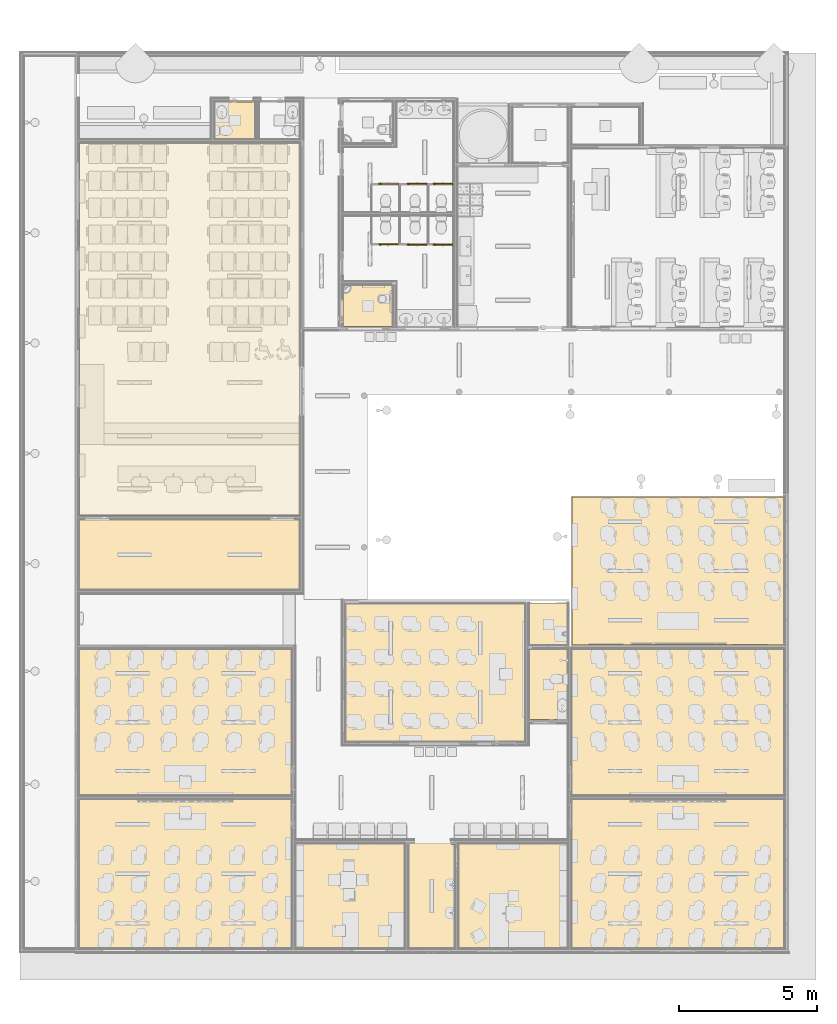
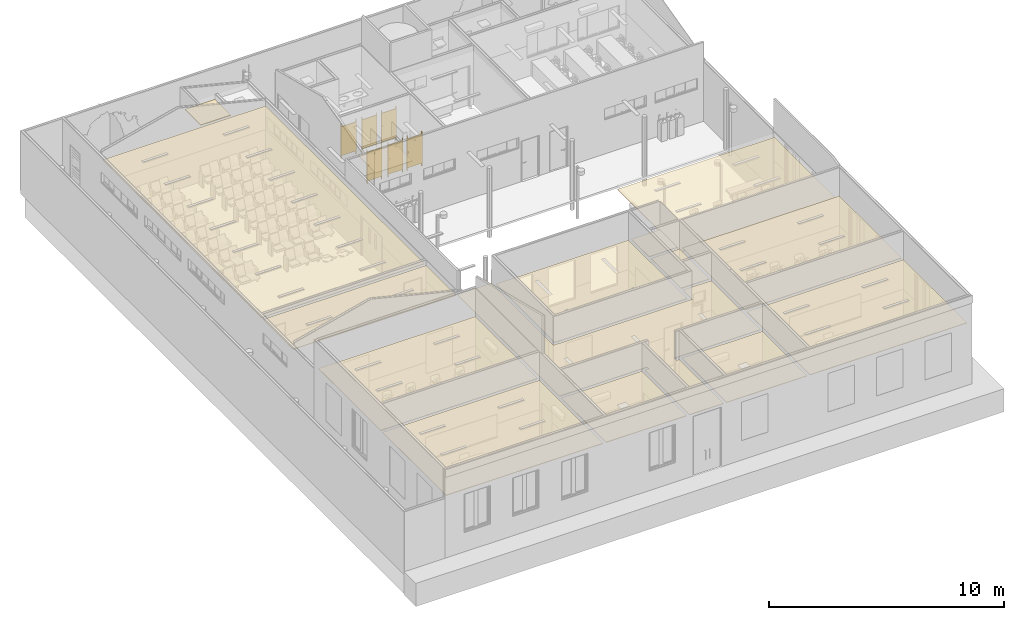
# One storey, part 49 of 155: 15 coverings, 6 doors.
"""IFC2X3 building model written with IfcOpenShell, lengths in metres."""

import ifcopenshell
import ifcopenshell.guid

model = None  # the IFC model being written
_history = None  # IfcOwnerHistory: only IFC2X3 demands one
_inside = {}  # id of a spatial element -> (the spatial element, [elements in it])
_under = {}  # id of a project, library or spatial element -> (it, [spatial elements below it])
_declared = {}  # id of a project -> (the project, [libraries it declares])
_typed = {}  # id of a type object -> (the type object, [elements of that type])
_made_of = {}  # id of a material, layer set ... -> (it, [elements and type objects made of it])


def new_model(schema):
    """Start an empty IFC model of exactly this schema.

    Asked for "IFC4X3", IfcOpenShell would pick the latest addendum, in which some entities
    have other attributes; the version numbers below select the first issue.
    IFC2X3 requires an IfcOwnerHistory on every rooted entity: one is made here for all.
    """
    global model, _history
    if schema == "IFC4X3":
        model = ifcopenshell.file(schema_version=(4, 3, 0, 0))
    else:
        model = ifcopenshell.file(schema=schema)
    _inside.clear()
    _under.clear()
    _declared.clear()
    _typed.clear()
    _made_of.clear()
    _history = None
    if model.schema == "IFC2X3":
        org = make("IfcOrganization", Name="unknown")
        user = make(
            "IfcPersonAndOrganization",
            ThePerson=make("IfcPerson", FamilyName="unknown"),
            TheOrganization=org,
        )
        app = make(
            "IfcApplication",
            ApplicationDeveloper=org,
            Version="unknown",
            ApplicationFullName="unknown",
            ApplicationIdentifier="unknown",
        )
        _history = make(
            "IfcOwnerHistory",
            OwningUser=user,
            OwningApplication=app,
            ChangeAction="ADDED",
            CreationDate=0,
        )
    return model


def make(cls, **values):
    """One entity of the class cls with the attributes given. An attribute that is None is left unset."""
    return model.create_entity(
        cls, **{name: value for name, value in values.items() if value is not None}
    )


def entity(cls, *values):
    """Any entity or typed value of the class cls, its attributes in the order of the schema. None: left unset."""
    e = model.create_entity(cls)
    for i, value in enumerate(values):
        if value is not None:
            e[i] = value
    return e


def rooted(cls, **values):
    """An entity with a GlobalId (a new one), such as an element, a storey or a relation."""
    return make(cls, GlobalId=ifcopenshell.guid.new(), OwnerHistory=_history, **values)


def si_unit(unit_type, name, prefix=None):
    """IfcSIUnit, for example si_unit("LENGTHUNIT", "METRE", prefix="MILLI")."""
    return make("IfcSIUnit", UnitType=unit_type, Prefix=prefix, Name=name)


def converted_unit(unit_type, name, factor, base, dimensions=None, offset=None):
    """IfcConversionBasedUnit, such as the inch: factor (a typed value) times the base unit."""
    return make(
        "IfcConversionBasedUnit"
        if offset is None
        else "IfcConversionBasedUnitWithOffset",
        ConversionOffset=offset,
        Dimensions=None
        if dimensions is None
        else entity("IfcDimensionalExponents", *dimensions),
        UnitType=unit_type,
        Name=name,
        ConversionFactor=make(
            "IfcMeasureWithUnit", ValueComponent=factor, UnitComponent=base
        ),
    )


def derived_unit(unit_type, elements):
    """IfcDerivedUnit: a product of units, each with its exponent."""
    return make(
        "IfcDerivedUnit",
        Elements=[
            make("IfcDerivedUnitElement", Unit=unit, Exponent=power)
            for unit, power in elements
        ],
        UnitType=unit_type,
    )


def assignment(units):
    """IfcUnitAssignment: the units of a project."""
    return None if units is None else make("IfcUnitAssignment", Units=units)


def point(xyz):
    """IfcCartesianPoint."""
    return None if xyz is None else make("IfcCartesianPoint", Coordinates=xyz)


def direction(xyz):
    """IfcDirection."""
    return None if xyz is None else make("IfcDirection", DirectionRatios=xyz)


def frame(location, z_axis=None, x_axis=None):
    """IfcAxis2Placement3D, a coordinate frame: its origin and axes. An axis left out is left unset."""
    return make(
        "IfcAxis2Placement3D",
        Location=point(location),
        Axis=direction(z_axis),
        RefDirection=direction(x_axis),
    )


def frame_2d(location, x_axis=None):
    """IfcAxis2Placement2D, a coordinate frame in the plane: its origin and x axis."""
    return make(
        "IfcAxis2Placement2D", Location=point(location), RefDirection=direction(x_axis)
    )


def origin():
    """The frame at (0, 0, 0) with its axes left unset."""
    return frame((0.0, 0.0, 0.0))


def origin_2d_with_axis():
    """The frame at (0, 0) in the plane with the x axis (1, 0) written out."""
    return frame_2d((0.0, 0.0), x_axis=(1.0, 0.0))


def place(relative_to, where):
    """IfcLocalPlacement: puts the frame where relative to a parent placement (None: the world)."""
    return make(
        "IfcLocalPlacement", PlacementRelTo=relative_to, RelativePlacement=where
    )


def context(
    kind, dimensions, precision=None, world=None, true_north=None, identifier=None
):
    """IfcGeometricRepresentationContext, for example the 3D "Model" context."""
    return make(
        "IfcGeometricRepresentationContext",
        ContextIdentifier=identifier,
        ContextType=kind,
        CoordinateSpaceDimension=dimensions,
        Precision=precision,
        WorldCoordinateSystem=world,
        TrueNorth=true_north,
    )


def subcontext(parent, identifier, kind, view, scale=None):
    """IfcGeometricRepresentationSubContext, for example "Body" below "Model"."""
    return make(
        "IfcGeometricRepresentationSubContext",
        ContextIdentifier=identifier,
        ContextType=kind,
        ParentContext=parent,
        TargetScale=scale,
        TargetView=view,
    )


def project(units=None, contexts=None):
    """IfcProject with its units and contexts."""
    return rooted(
        "IfcProject",
        Name="project",
        RepresentationContexts=contexts,
        UnitsInContext=assignment(units),
    )


def spatial(cls, under=None, at=None, **own):
    """A site, building, storey or space (cls), placed at a placement, below another one or the project."""
    s = rooted(cls, ObjectPlacement=at, **own)
    if under is not None:
        _under.setdefault(under.id(), (under, []))[1].append(s)
    return s


def polyline(points):
    """IfcPolyline through the points."""
    return make("IfcPolyline", Points=[point(p) for p in points])


def circle_curve(where, radius):
    """IfcCircle in the frame where."""
    return make("IfcCircle", Position=where, Radius=radius)


def parameter(value):
    """IfcParameterValue: where a trimmed curve begins or ends, as a parameter of its basis curve."""
    return model.create_entity("IfcParameterValue", value)


def trimmed(basis, trim1, trim2, sense, master):
    """IfcTrimmedCurve: the piece of a basis curve between two trims."""
    return make(
        "IfcTrimmedCurve",
        BasisCurve=basis,
        Trim1=trim1,
        Trim2=trim2,
        SenseAgreement=sense,
        MasterRepresentation=master,
    )


def segment(curve, same_sense, transition):
    """IfcCompositeCurveSegment."""
    return make(
        "IfcCompositeCurveSegment",
        Transition=transition,
        SameSense=same_sense,
        ParentCurve=curve,
    )


def composite_curve(segments, self_intersect=None):
    """IfcCompositeCurve: segments joined end to end."""
    return make("IfcCompositeCurve", Segments=segments, SelfIntersect=self_intersect)


def profile(cls, at=None, kind="AREA", **sizes):
    """A parametric profile (cls). Its sizes go by their IFC names, for example OverallWidth=200.0."""
    return make(cls, ProfileType=kind, Position=at, **sizes)


def rectangle(**sizes):
    """IfcRectangleProfileDef."""
    return profile("IfcRectangleProfileDef", **sizes)


def circle(**sizes):
    """IfcCircleProfileDef."""
    return profile("IfcCircleProfileDef", **sizes)


def outline(outer, holes=None, kind="AREA"):
    """IfcArbitraryClosedProfileDef: a profile drawn as a closed curve; with holes, ...WithVoids."""
    if holes is None:
        return make("IfcArbitraryClosedProfileDef", ProfileType=kind, OuterCurve=outer)
    return make(
        "IfcArbitraryProfileDefWithVoids",
        ProfileType=kind,
        OuterCurve=outer,
        InnerCurves=holes,
    )


def extrude(swept, where, along, depth):
    """IfcExtrudedAreaSolid: the profile swept, set in the frame where, extruded along a direction by depth."""
    return make(
        "IfcExtrudedAreaSolid",
        SweptArea=swept,
        Position=where,
        ExtrudedDirection=direction(along),
        Depth=depth,
    )


def shape(context_of_items, identifier, shape_type, items):
    """IfcShapeRepresentation: the items that make up one representation, for example the "Body"."""
    return make(
        "IfcShapeRepresentation",
        ContextOfItems=context_of_items,
        RepresentationIdentifier=identifier,
        RepresentationType=shape_type,
        Items=items,
    )


def source(mapping_origin, context_of_items, identifier, shape_type, items):
    """IfcRepresentationMap: a shape defined once, which mapped items show again and again."""
    return make(
        "IfcRepresentationMap",
        MappingOrigin=mapping_origin,
        MappedRepresentation=shape(context_of_items, identifier, shape_type, items),
    )


def transform(
    local_origin,
    x_axis=None,
    y_axis=None,
    z_axis=None,
    scale=None,
    scale2=None,
    scale3=None,
    uniform=True,
):
    """IfcCartesianTransformationOperator3D, or its non-uniform kind. x_axis, y_axis, z_axis: its Axis1, 2, 3."""
    if uniform:
        return make(
            "IfcCartesianTransformationOperator3D",
            Axis1=direction(x_axis),
            Axis2=direction(y_axis),
            LocalOrigin=point(local_origin),
            Scale=scale,
            Axis3=direction(z_axis),
        )
    return make(
        "IfcCartesianTransformationOperator3DnonUniform",
        Axis1=direction(x_axis),
        Axis2=direction(y_axis),
        LocalOrigin=point(local_origin),
        Scale=scale,
        Axis3=direction(z_axis),
        Scale2=scale2,
        Scale3=scale3,
    )


def mapped(mapping_source, mapping_target):
    """IfcMappedItem: shows the shape of a source again, moved by a transform."""
    return make(
        "IfcMappedItem", MappingSource=mapping_source, MappingTarget=mapping_target
    )


def material(Name=None, Category=None):
    """IfcMaterial."""
    return make("IfcMaterial", Name=Name, Category=Category)


def material_list(materials):
    """IfcMaterialList."""
    return make("IfcMaterialList", Materials=materials)


def layer(
    of_material, thickness, ventilated=None, Name=None, Category=None, Priority=None
):
    """IfcMaterialLayer: one layer of a wall or slab, of a material (None: an air gap)."""
    return make(
        "IfcMaterialLayer",
        Material=of_material,
        LayerThickness=thickness,
        IsVentilated=ventilated,
        Name=Name,
        Category=Category,
        Priority=Priority,
    )


def layer_set(layers, Name=None):
    """IfcMaterialLayerSet."""
    return make("IfcMaterialLayerSet", MaterialLayers=layers, LayerSetName=Name)


def layer_usage(for_layer_set, set_direction, sense, offset, extent=None):
    """IfcMaterialLayerSetUsage: how a layer set lies in its element."""
    return make(
        "IfcMaterialLayerSetUsage",
        ForLayerSet=for_layer_set,
        LayerSetDirection=set_direction,
        DirectionSense=sense,
        OffsetFromReferenceLine=offset,
        ReferenceExtent=extent,
    )


def made_of(thing, what):
    """Note that an element or type object is made of a material, layer set ...; save() writes the relation."""
    if what is not None:
        _made_of.setdefault(what.id(), (what, []))[1].append(thing)
    return thing


def type_object(cls, material=None, **own):
    """A type object (cls), such as IfcWallType, which elements share."""
    return made_of(rooted(cls, **own), material)


def type_shapes(of_type, sources):
    """Give a type object the sources (RepresentationMaps) that its elements show as mapped items."""
    of_type.RepresentationMaps = sources


def element(
    cls,
    number,
    at=None,
    inside=None,
    cuts=None,
    type_object=None,
    material=None,
    context=None,
    identifier="Body",
    shape_type=None,
    held_by="IfcProductDefinitionShape",
    body=None,
    shapes=None,
    **own,
):
    """One element of the class cls, such as IfcWall. Its Tag is "e" and its number.

    at: its placement. inside: the storey or other place that contains it. cuts: it is an
    opening in that element (IfcRelVoidsElement). A single representation is given by context,
    identifier, shape_type and body (its items); several are given by shapes. held_by: the class
    of the entity that holds the representations. save() writes the other relations.
    """
    e = rooted(cls, Tag="e%d" % number, ObjectPlacement=at, **own)
    if body is not None:
        shapes = [shape(context, identifier, shape_type, body)]
    if shapes is not None:
        e.Representation = make(held_by, Representations=shapes)
    if inside is not None:
        _inside.setdefault(inside.id(), (inside, []))[1].append(e)
    if cuts is not None:
        rooted(
            "IfcRelVoidsElement", RelatingBuildingElement=cuts, RelatedOpeningElement=e
        )
    if type_object is not None:
        _typed.setdefault(type_object.id(), (type_object, []))[1].append(e)
    return made_of(e, material)


def aggregate(whole, parts):
    """IfcRelAggregates: a whole, such as a stair, and the parts it consists of."""
    return rooted("IfcRelAggregates", RelatingObject=whole, RelatedObjects=parts)


def save(model, path):
    """Write the relations noted so far, then the file.

    IfcRelAggregates (storeys below a building ...), IfcRelContainedInSpatialStructure (elements
    in a storey), IfcRelDefinesByType, IfcRelAssociatesMaterial and IfcRelDeclares: one each for
    every whole, place, type object, material and project.
    """
    for whole, parts in _under.values():
        aggregate(whole, parts)
    for where, things in _inside.values():
        rooted(
            "IfcRelContainedInSpatialStructure",
            RelatedElements=things,
            RelatingStructure=where,
        )
    for kind, things in _typed.values():
        rooted("IfcRelDefinesByType", RelatedObjects=things, RelatingType=kind)
    for what, things in _made_of.values():
        rooted("IfcRelAssociatesMaterial", RelatedObjects=things, RelatingMaterial=what)
    for by, libraries in _declared.values():
        rooted("IfcRelDeclares", RelatingContext=by, RelatedDefinitions=libraries)
    model.write(path)


model = new_model("IFC2X3")

# Units and contexts
model_context = context("Model", 3, precision=1e-05, world=origin(), true_north=direction((6.12303176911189e-17, 1.0)))
body_context = subcontext(model_context, "Body", "Model", "MODEL_VIEW")
ifc_project = project(units=[si_unit("LENGTHUNIT", "METRE"), si_unit("AREAUNIT", "SQUARE_METRE"), si_unit("VOLUMEUNIT", "CUBIC_METRE"), converted_unit("PLANEANGLEUNIT", "DEGREE", entity("IfcRatioMeasure", 0.0174532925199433), si_unit("PLANEANGLEUNIT", "RADIAN"), dimensions=[0, 0, 0, 0, 0, 0, 0]), si_unit("MASSUNIT", "GRAM", prefix="KILO"), derived_unit("MASSDENSITYUNIT", [(si_unit("MASSUNIT", "GRAM", prefix="KILO"), 1), (si_unit("LENGTHUNIT", "METRE"), -3)]), si_unit("TIMEUNIT", "SECOND"), si_unit("FREQUENCYUNIT", "HERTZ"), si_unit("THERMODYNAMICTEMPERATUREUNIT", "DEGREE_CELSIUS"), derived_unit("THERMALTRANSMITTANCEUNIT", [(si_unit("MASSUNIT", "GRAM", prefix="KILO"), 1), (si_unit("THERMODYNAMICTEMPERATUREUNIT", "KELVIN"), -1), (si_unit("TIMEUNIT", "SECOND"), -3)]), derived_unit("VOLUMETRICFLOWRATEUNIT", [(si_unit("LENGTHUNIT", "METRE"), 3), (si_unit("TIMEUNIT", "SECOND"), -1)]), si_unit("ELECTRICCURRENTUNIT", "AMPERE"), si_unit("ELECTRICVOLTAGEUNIT", "VOLT"), si_unit("POWERUNIT", "WATT"), si_unit("FORCEUNIT", "NEWTON", prefix="KILO"), si_unit("ILLUMINANCEUNIT", "LUX"), si_unit("LUMINOUSFLUXUNIT", "LUMEN"), si_unit("LUMINOUSINTENSITYUNIT", "CANDELA"), derived_unit("USERDEFINED", [(si_unit("MASSUNIT", "GRAM", prefix="KILO"), -1), (si_unit("LENGTHUNIT", "METRE"), -2), (si_unit("TIMEUNIT", "SECOND"), 3), (si_unit("LUMINOUSFLUXUNIT", "LUMEN"), 1)]), derived_unit("LINEARVELOCITYUNIT", [(si_unit("LENGTHUNIT", "METRE"), 1), (si_unit("TIMEUNIT", "SECOND"), -1)]), si_unit("PRESSUREUNIT", "PASCAL"), derived_unit("USERDEFINED", [(si_unit("LENGTHUNIT", "METRE"), -2), (si_unit("MASSUNIT", "GRAM", prefix="KILO"), 1), (si_unit("TIMEUNIT", "SECOND"), -2)])], contexts=[model_context])

# Site, building, storey
site_placement = place(None, frame((26.9889013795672, -17.5624287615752, 0.0)))
site = spatial("IfcSite", under=ifc_project, at=site_placement, Name="Default", CompositionType="ELEMENT")
building_placement = place(site_placement, origin())
building = spatial("IfcBuilding", under=site, at=building_placement, Name="C. C. L. Monsenhor Antônio Sampaio", CompositionType="ELEMENT")
storey_placement = place(building_placement, frame((0.0, 0.0, 1.19999999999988)))
storey = spatial("IfcBuildingStorey", under=building, at=storey_placement, Name="Nível 1.2", CompositionType="ELEMENT", Elevation=1.19999999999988)

# Doors
ifc_material_1 = material(Name="Padrão")
ifc_material_2 = material(Name=".Madeira")
ifc_material_3 = material(Name="Alumínio")
ifc_material_list_1 = material_list([ifc_material_1, ifc_material_2, ifc_material_3])
ifc_material_list_2 = material_list([ifc_material_1, ifc_material_2, ifc_material_3])
door_style_1 = type_object("IfcDoorStyle", Name="PORTA BOXE BANHEIROS", ConstructionType="NOTDEFINED", OperationType="SINGLE_SWING_RIGHT", ParameterTakesPrecedence=False, Sizeable=False, material=ifc_material_list_2)
shared_shape_1 = source(origin(), body_context, "Body", "SweptSolid", [
    extrude(circle(Radius=0.0225, at=frame_2d((0.0, -3.38395977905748e-17), x_axis=(1.0, 0.0))), frame((-0.289000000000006, -0.007432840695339, 0.949999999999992), z_axis=(0.0, 1.0, 0.0), x_axis=(0.0, 0.0, 1.0)), (0.0, 0.0, 1.0), 0.00743284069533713),
    extrude(rectangle(XDim=0.015, YDim=0.01, at=frame_2d((4.33680868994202e-18, -1.69135538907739e-17), x_axis=(1.0, 0.0))), frame((-0.288999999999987, 0.0524999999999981, 0.932500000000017), z_axis=(0.0, 0.0, 1.0), x_axis=(0.0, -1.0, 0.0)), (0.0, 0.0, 1.0), 0.035),
    extrude(rectangle(XDim=0.01, YDim=0.055, at=frame_2d((4.33680868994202e-18, -1.73472347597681e-17), x_axis=(1.0, 0.0))), frame((-0.288999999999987, 0.0399999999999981, 0.912500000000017), z_axis=(0.0, 0.0, 1.0), x_axis=(0.0, -1.0, 0.0)), (0.0, 0.0, 1.0), 0.075),
    extrude(outline(composite_curve([segment(polyline([(-0.0169104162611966, 0.0147486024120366), (0.00736096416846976, 0.0147486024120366)]), True, "CONTINUOUS"), segment(polyline([(0.00736096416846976, 0.0147486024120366), (0.00736096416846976, 0.0167486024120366)]), True, "CONTINUOUS"), segment(polyline([(0.00736096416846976, 0.0167486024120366), (-0.0169104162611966, 0.0167486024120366)]), True, "CONTINUOUS"), segment(trimmed(circle_curve(frame_2d((-0.0169104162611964, 0.0104499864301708), x_axis=(1.0, 0.0)), 0.00629861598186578), [parameter(90.0000000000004)], [parameter(269.999999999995)], True, "PARAMETER"), True, "CONTINUOUS"), segment(trimmed(circle_curve(frame_2d((-0.0169104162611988, -0.038414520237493), x_axis=(1.0, 0.0)), 0.042565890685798), [parameter(50.0000000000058)], [parameter(89.9999999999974)], True, "PARAMETER"), False, "CONTINUOUS"), segment(trimmed(circle_curve(frame_2d((0.00676822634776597, -0.0101954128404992), x_axis=(1.0, 0.0)), 0.00572846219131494), [parameter(310.000000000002)], [parameter(50.0000000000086)], True, "PARAMETER"), False, "CONTINUOUS"), segment(trimmed(circle_curve(frame_2d((0.00790334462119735, -0.0115481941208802), x_axis=(1.0, 0.0)), 0.0039625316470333), [parameter(169.614814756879)], [parameter(310.000000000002)], True, "PARAMETER"), False, "CONTINUOUS"), segment(trimmed(circle_curve(frame_2d((0.00326279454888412, -0.010697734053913), x_axis=(1.0, 0.0)), 0.000755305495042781), [parameter(349.614814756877)], [parameter(151.85950286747)], True, "PARAMETER"), True, "CONTINUOUS"), segment(trimmed(circle_curve(frame_2d((0.00352820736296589, -0.0116623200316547), x_axis=(-1.0, 0.0)), 0.00161620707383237), [parameter(305.191431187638)], [parameter(348.500166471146)], True, "PARAMETER"), True, "CONTINUOUS"), segment(trimmed(circle_curve(frame_2d((0.00790334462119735, -0.0115481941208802), x_axis=(1.0, 0.0)), 0.0059625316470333), [parameter(177.999999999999)], [parameter(310.000000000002)], True, "PARAMETER"), True, "CONTINUOUS"), segment(trimmed(circle_curve(frame_2d((0.00676822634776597, -0.0101954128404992), x_axis=(1.0, 0.0)), 0.00772846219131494), [parameter(310.000000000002)], [parameter(50.0000000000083)], True, "PARAMETER"), True, "CONTINUOUS"), segment(trimmed(circle_curve(frame_2d((-0.0169104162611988, -0.038414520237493), x_axis=(1.0, 0.0)), 0.044565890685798), [parameter(50.0000000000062)], [parameter(89.9999999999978)], True, "PARAMETER"), True, "CONTINUOUS"), segment(trimmed(circle_curve(frame_2d((-0.0169104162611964, 0.0104499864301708), x_axis=(1.0, 0.0)), 0.00429861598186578), [parameter(90.0000000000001)], [parameter(269.999999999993)], True, "PARAMETER"), False, "CONTINUOUS")], self_intersect=False)), frame((-0.0250000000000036, 0.0517486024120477, 1.48622347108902), z_axis=(-1.0, 0.0, 0.0), x_axis=(0.0, 0.0, -1.0)), (0.0, 0.0, -1.0), 0.05),
    extrude(rectangle(XDim=0.7, YDim=0.0350000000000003, at=origin_2d_with_axis()), frame((0.0, 0.0175000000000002, 0.149999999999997), z_axis=(0.0, 0.0, 1.0), x_axis=(-1.0, 0.0, 0.0)), (0.0, 0.0, 1.0), 1.5),
    extrude(outline(polyline([(-0.00966666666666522, -0.00413215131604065), (0.0273333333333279, -0.00413215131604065), (0.0273333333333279, 0.0158678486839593), (0.025333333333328, 0.0158678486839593), (0.025333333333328, -0.0021321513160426), (-0.0116666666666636, -0.0021321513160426), (-0.0116666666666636, -0.011735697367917), (-0.0146666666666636, -0.011735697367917), (-0.0146666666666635, 0.0162643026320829), (-0.0166666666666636, 0.0162643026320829), (-0.0166666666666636, -0.0141321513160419), (-0.00966666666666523, -0.014132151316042), (-0.00966666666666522, -0.00413215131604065)])), frame((-0.356132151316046, 0.00966666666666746, 0.0), z_axis=(0.0, 0.0, 1.0), x_axis=(0.0, 1.0, 0.0)), (0.0, 0.0, 1.0), 1.8),
    extrude(outline(polyline([(0.00413215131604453, 0.00966666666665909), (0.0141321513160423, 0.00966666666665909), (0.0141321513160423, 0.0166666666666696), (-0.0162643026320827, 0.0166666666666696), (-0.0162643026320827, 0.0146666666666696), (0.0117356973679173, 0.0146666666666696), (0.0117356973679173, 0.0116666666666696), (0.00213215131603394, 0.0116666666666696), (0.0021321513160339, -0.025333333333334), (-0.0158678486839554, -0.025333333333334), (-0.0158678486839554, -0.027333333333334), (0.00413215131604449, -0.027333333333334), (0.00413215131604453, 0.00966666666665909)])), frame((0.356132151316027, 0.0096666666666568, 0.0), z_axis=(0.0, 0.0, 1.0), x_axis=(-1.0, 0.0, 0.0)), (0.0, 0.0, 1.0), 1.8),
])
type_shapes(door_style_1, [shared_shape_1])
door_1_placement = place(storey_placement, frame((-0.803784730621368, -11.5960663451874, 0.0)))
element("IfcDoor", 1, at=door_1_placement, inside=storey, type_object=door_style_1, material=ifc_material_list_1, Name="Porta 60x165-15:PORTA BOXE BANHEIROS", ObjectType="PORTA BOXE BANHEIROS", OverallHeight=1.8, OverallWidth=0.744792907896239, context=body_context, shape_type="MappedRepresentation", body=[
    mapped(shared_shape_1, transform((0.0, 0.0, 0.0), scale=1.0)),
])
ifc_material_list_3 = material_list([ifc_material_1, ifc_material_2, ifc_material_3])
door_2_placement = place(storey_placement, frame((-1.74815075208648, -11.5960663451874, 0.0)))
element("IfcDoor", 2, at=door_2_placement, inside=storey, type_object=door_style_1, material=ifc_material_list_3, Name="Porta 60x165-15:PORTA BOXE BANHEIROS", ObjectType="PORTA BOXE BANHEIROS", OverallHeight=1.8, OverallWidth=0.744792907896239, context=body_context, shape_type="MappedRepresentation", body=[
    mapped(shared_shape_1, transform((0.0, 0.0, 0.0), scale=1.0)),
])
ifc_material_list_4 = material_list([ifc_material_1, ifc_material_2, ifc_material_3])
door_3_placement = place(storey_placement, frame((-2.77815075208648, -11.5995663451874, 0.0)))
element("IfcDoor", 3, at=door_3_placement, inside=storey, type_object=door_style_1, material=ifc_material_list_4, Name="Porta 60x165-15:PORTA BOXE BANHEIROS", ObjectType="PORTA BOXE BANHEIROS", OverallHeight=1.8, OverallWidth=0.744792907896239, context=body_context, shape_type="MappedRepresentation", body=[
    mapped(shared_shape_1, transform((0.0, 0.0, 0.0), scale=1.0)),
])
ifc_material_list_5 = material_list([ifc_material_1, ifc_material_2, ifc_material_3])
ifc_material_list_6 = material_list([ifc_material_1, ifc_material_2, ifc_material_3])
door_style_2 = type_object("IfcDoorStyle", Name="PORTA BOXE BANHEIROS", ConstructionType="NOTDEFINED", OperationType="SINGLE_SWING_LEFT", ParameterTakesPrecedence=False, Sizeable=False, material=ifc_material_list_6)
shared_shape_2 = source(origin(), body_context, "Body", "SweptSolid", [
    extrude(circle(Radius=0.0225, at=frame_2d((0.0, -3.38395977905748e-17), x_axis=(1.0, 0.0))), frame((-0.289000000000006, 0.0, 0.949999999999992), z_axis=(0.0, 1.0, 0.0), x_axis=(0.0, 0.0, 1.0)), (0.0, 0.0, 1.0), 0.00743284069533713),
    extrude(rectangle(XDim=0.01, YDim=0.015, at=frame_2d((1.69135538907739e-17, -4.33680868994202e-18), x_axis=(1.0, 0.0))), frame((-0.288999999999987, -0.0524999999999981, 0.932500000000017)), (0.0, 0.0, 1.0), 0.035),
    extrude(rectangle(XDim=0.055, YDim=0.01, at=frame_2d((3.29597460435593e-17, 4.33680868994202e-18), x_axis=(1.0, 0.0))), frame((-0.288999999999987, -0.0399999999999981, 0.912500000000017)), (0.0, 0.0, 1.0), 0.075),
    extrude(outline(composite_curve([segment(polyline([(-0.0169104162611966, 0.0147486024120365), (0.00736096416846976, 0.0147486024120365)]), True, "CONTINUOUS"), segment(polyline([(0.00736096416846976, 0.0147486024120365), (0.00736096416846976, 0.0167486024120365)]), True, "CONTINUOUS"), segment(polyline([(0.00736096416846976, 0.0167486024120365), (-0.0169104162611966, 0.0167486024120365)]), True, "CONTINUOUS"), segment(trimmed(circle_curve(frame_2d((-0.0169104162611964, 0.0104499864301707), x_axis=(1.0, 0.0)), 0.00629861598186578), [parameter(90.0000000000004)], [parameter(269.999999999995)], True, "PARAMETER"), True, "CONTINUOUS"), segment(trimmed(circle_curve(frame_2d((-0.0169104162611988, -0.038414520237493), x_axis=(1.0, 0.0)), 0.042565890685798), [parameter(50.0000000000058)], [parameter(89.9999999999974)], True, "PARAMETER"), False, "CONTINUOUS"), segment(trimmed(circle_curve(frame_2d((0.00676822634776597, -0.0101954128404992), x_axis=(1.0, 0.0)), 0.00572846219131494), [parameter(310.000000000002)], [parameter(50.0000000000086)], True, "PARAMETER"), False, "CONTINUOUS"), segment(trimmed(circle_curve(frame_2d((0.00790334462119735, -0.0115481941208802), x_axis=(1.0, 0.0)), 0.0039625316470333), [parameter(169.614814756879)], [parameter(310.000000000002)], True, "PARAMETER"), False, "CONTINUOUS"), segment(trimmed(circle_curve(frame_2d((0.00326279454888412, -0.010697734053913), x_axis=(1.0, 0.0)), 0.000755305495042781), [parameter(349.614814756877)], [parameter(151.85950286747)], True, "PARAMETER"), True, "CONTINUOUS"), segment(trimmed(circle_curve(frame_2d((0.00352820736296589, -0.0116623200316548), x_axis=(-1.0, 0.0)), 0.00161620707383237), [parameter(305.191431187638)], [parameter(348.500166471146)], True, "PARAMETER"), True, "CONTINUOUS"), segment(trimmed(circle_curve(frame_2d((0.00790334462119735, -0.0115481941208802), x_axis=(1.0, 0.0)), 0.0059625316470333), [parameter(177.999999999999)], [parameter(310.000000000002)], True, "PARAMETER"), True, "CONTINUOUS"), segment(trimmed(circle_curve(frame_2d((0.00676822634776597, -0.0101954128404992), x_axis=(1.0, 0.0)), 0.00772846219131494), [parameter(310.000000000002)], [parameter(50.0000000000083)], True, "PARAMETER"), True, "CONTINUOUS"), segment(trimmed(circle_curve(frame_2d((-0.0169104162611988, -0.038414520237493), x_axis=(1.0, 0.0)), 0.044565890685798), [parameter(50.0000000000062)], [parameter(89.9999999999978)], True, "PARAMETER"), True, "CONTINUOUS"), segment(trimmed(circle_curve(frame_2d((-0.0169104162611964, 0.0104499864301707), x_axis=(1.0, 0.0)), 0.00429861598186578), [parameter(90.0000000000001)], [parameter(269.999999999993)], True, "PARAMETER"), False, "CONTINUOUS")], self_intersect=False)), frame((-0.0250000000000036, -0.0517486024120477, 1.48622347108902), z_axis=(1.0, 0.0, 0.0), x_axis=(0.0, 0.0, -1.0)), (0.0, 0.0, 1.0), 0.05),
    extrude(rectangle(XDim=0.0350000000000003, YDim=0.7, at=origin_2d_with_axis()), frame((0.0, -0.0175000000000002, 0.149999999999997), z_axis=(0.0, 0.0, 1.0), x_axis=(0.0, 1.0, 0.0)), (0.0, 0.0, 1.0), 1.5),
    extrude(outline(polyline([(0.00413215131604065, 0.00966666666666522), (0.014132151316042, 0.00966666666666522), (0.0141321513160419, 0.0166666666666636), (-0.0162643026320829, 0.0166666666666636), (-0.0162643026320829, 0.0146666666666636), (0.011735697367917, 0.0146666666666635), (0.011735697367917, 0.0116666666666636), (0.00213215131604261, 0.0116666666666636), (0.00213215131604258, -0.025333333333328), (-0.0158678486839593, -0.025333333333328), (-0.0158678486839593, -0.0273333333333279), (0.00413215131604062, -0.0273333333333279), (0.00413215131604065, 0.00966666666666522)])), frame((-0.356132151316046, -0.00966666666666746, 0.0)), (0.0, 0.0, 1.0), 1.8),
    extrude(outline(polyline([(-0.00966666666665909, -0.00413215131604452), (0.027333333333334, -0.00413215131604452), (0.027333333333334, 0.0158678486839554), (0.025333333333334, 0.0158678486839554), (0.025333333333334, -0.00213215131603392), (-0.0116666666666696, -0.00213215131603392), (-0.0116666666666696, -0.0117356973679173), (-0.0146666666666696, -0.0117356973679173), (-0.0146666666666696, 0.0162643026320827), (-0.0166666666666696, 0.0162643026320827), (-0.0166666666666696, -0.0141321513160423), (-0.0096666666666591, -0.0141321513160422), (-0.00966666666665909, -0.00413215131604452)])), frame((0.356132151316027, -0.0096666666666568, 0.0), z_axis=(0.0, 0.0, 1.0), x_axis=(0.0, -1.0, 0.0)), (0.0, 0.0, 1.0), 1.8),
])
type_shapes(door_style_2, [shared_shape_2])
door_4_placement = place(storey_placement, frame((-0.803784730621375, -13.7600663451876, 0.0)))
element("IfcDoor", 4, at=door_4_placement, inside=storey, type_object=door_style_2, material=ifc_material_list_5, Name="Porta 60x165-15:PORTA BOXE BANHEIROS", ObjectType="PORTA BOXE BANHEIROS", OverallHeight=1.8, OverallWidth=0.744792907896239, context=body_context, shape_type="MappedRepresentation", body=[
    mapped(shared_shape_2, transform((0.0, 0.0, 0.0), scale=1.0)),
])
ifc_material_list_7 = material_list([ifc_material_1, ifc_material_2, ifc_material_3])
door_5_placement = place(storey_placement, frame((-1.74815075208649, -13.7600663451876, 0.0)))
element("IfcDoor", 5, at=door_5_placement, inside=storey, type_object=door_style_2, material=ifc_material_list_7, Name="Porta 60x165-15:PORTA BOXE BANHEIROS", ObjectType="PORTA BOXE BANHEIROS", OverallHeight=1.8, OverallWidth=0.744792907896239, context=body_context, shape_type="MappedRepresentation", body=[
    mapped(shared_shape_2, transform((0.0, 0.0, 0.0), scale=1.0)),
])
ifc_material_list_8 = material_list([ifc_material_1, ifc_material_2, ifc_material_3])
door_6_placement = place(storey_placement, frame((-2.77815075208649, -13.7565663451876, 0.0)))
element("IfcDoor", 6, at=door_6_placement, inside=storey, type_object=door_style_2, material=ifc_material_list_8, Name="Porta 60x165-15:PORTA BOXE BANHEIROS", ObjectType="PORTA BOXE BANHEIROS", OverallHeight=1.8, OverallWidth=0.744792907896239, context=body_context, shape_type="MappedRepresentation", body=[
    mapped(shared_shape_2, transform((0.0, 0.0, 0.0), scale=1.0)),
])

# Space
space_1_placement = place(storey_placement, origin())
space_1 = spatial("IfcSpace", under=storey, at=space_1_placement, Name="77", CompositionType="ELEMENT", InteriorOrExteriorSpace="INTERNAL")

# Covering
ifc_material_4 = material(Name=".Placa de Gesso Pintada de Branco")
ifc_layer_1 = layer(ifc_material_4, 0.03)
ifc_layer_set_1 = layer_set([ifc_layer_1], Name="Forro composto:Forro de Gesso")
ifc_layer_usage_1 = layer_usage(ifc_layer_set_1, "AXIS3", "POSITIVE", 0.0)
covering_1_placement = place(space_1_placement, origin())
element("IfcCovering", 7, at=covering_1_placement, inside=space_1, material=ifc_layer_usage_1, Name="Forro composto:Forro de Gesso", ObjectType="Forro composto:Forro de Gesso", PredefinedType="CEILING", context=body_context, shape_type="SweptSolid", body=[
    extrude(rectangle(XDim=5.40000000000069, YDim=7.70000000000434, at=frame_2d((-2.22044604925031e-15, 0.0), x_axis=(1.0, 0.0))), frame((7.72944770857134, -36.6030663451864, 3.1), z_axis=(0.0, 0.0, 1.0), x_axis=(0.0, -1.0, 0.0)), (0.0, 0.0, 1.0), 0.0300000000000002),
])

# Space
space_2_placement = place(storey_placement, origin())
space_2 = spatial("IfcSpace", under=storey, at=space_2_placement, Name="82", CompositionType="ELEMENT", InteriorOrExteriorSpace="INTERNAL")

# Covering
ifc_layer_usage_2 = layer_usage(ifc_layer_set_1, "AXIS3", "POSITIVE", 0.0)
covering_2_placement = place(space_2_placement, origin())
element("IfcCovering", 8, at=covering_2_placement, inside=space_2, material=ifc_layer_usage_2, Name="Forro composto:Forro de Gesso", ObjectType="Forro composto:Forro de Gesso", PredefinedType="CEILING", context=body_context, shape_type="SweptSolid", body=[
    extrude(rectangle(XDim=5.30000000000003, YDim=7.70000000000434, at=origin_2d_with_axis()), frame((7.72944770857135, -31.103066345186, 3.1), z_axis=(0.0, 0.0, 1.0), x_axis=(0.0, -1.0, 0.0)), (0.0, 0.0, 1.0), 0.0300000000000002),
])

# Space
space_3_placement = place(storey_placement, origin())
space_3 = spatial("IfcSpace", under=storey, at=space_3_placement, Name="83", CompositionType="ELEMENT", InteriorOrExteriorSpace="INTERNAL")

# Covering
ifc_material_5 = material(Name=".Forro em gesso")
ifc_layer_2 = layer(ifc_material_5, 0.03)
ifc_layer_set_2 = layer_set([ifc_layer_2], Name="Forro composto:Forro Mineral")
ifc_layer_usage_3 = layer_usage(ifc_layer_set_2, "AXIS3", "POSITIVE", 0.0)
covering_3_placement = place(space_3_placement, origin())
element("IfcCovering", 9, at=covering_3_placement, inside=space_3, material=ifc_layer_usage_3, Name="Forro composto:Forro Mineral", ObjectType="Forro composto:Forro Mineral", PredefinedType="CEILING", context=body_context, shape_type="SweptSolid", body=[
    extrude(rectangle(XDim=7.70007053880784, YDim=5.36999999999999, at=origin_2d_with_axis()), frame((7.7294124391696, -25.618066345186, 2.8), z_axis=(0.0, 0.0, 1.0), x_axis=(-1.0, 0.0, 0.0)), (0.0, 0.0, 1.0), 0.0300000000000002),
])

# Space
space_4_placement = place(storey_placement, origin())
space_4 = spatial("IfcSpace", under=storey, at=space_4_placement, Name="78", CompositionType="ELEMENT", InteriorOrExteriorSpace="INTERNAL")

# Covering
ifc_layer_usage_4 = layer_usage(ifc_layer_set_1, "AXIS3", "POSITIVE", 0.0)
covering_4_placement = place(space_4_placement, origin())
element("IfcCovering", 10, at=covering_4_placement, inside=space_4, material=ifc_layer_usage_4, Name="Forro composto:Forro de Gesso", ObjectType="Forro composto:Forro de Gesso", PredefinedType="CEILING", context=body_context, shape_type="SweptSolid", body=[
    extrude(rectangle(XDim=3.95, YDim=3.80000000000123, at=frame_2d((2.22044604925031e-16, 4.32986979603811e-15), x_axis=(1.0, 0.0))), frame((1.75444770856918, -37.4030663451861, 3.1), z_axis=(0.0, 0.0, 1.0), x_axis=(-1.0, 0.0, 0.0)), (0.0, 0.0, 1.0), 0.0300000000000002),
])

# Space
space_5_placement = place(storey_placement, origin())
space_5 = spatial("IfcSpace", under=storey, at=space_5_placement, Name="79", CompositionType="ELEMENT", InteriorOrExteriorSpace="INTERNAL")

# Covering
ifc_layer_usage_5 = layer_usage(ifc_layer_set_1, "AXIS3", "POSITIVE", 0.0)
covering_5_placement = place(space_5_placement, origin())
element("IfcCovering", 11, at=covering_5_placement, inside=space_5, material=ifc_layer_usage_5, Name="Forro composto:Forro de Gesso", ObjectType="Forro composto:Forro de Gesso", PredefinedType="CEILING", context=body_context, shape_type="SweptSolid", body=[
    extrude(rectangle(XDim=3.80000000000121, YDim=3.94999999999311, at=frame_2d((-2.22044604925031e-15, 5.55111512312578e-16), x_axis=(1.0, 0.0))), frame((-4.16555229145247, -37.403066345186, 3.1), z_axis=(0.0, 0.0, 1.0), x_axis=(0.0, -1.0, 0.0)), (0.0, 0.0, 1.0), 0.0300000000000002),
])

# Space
space_6_placement = place(storey_placement, origin())
space_6 = spatial("IfcSpace", under=storey, at=space_6_placement, Name="80", CompositionType="ELEMENT", InteriorOrExteriorSpace="INTERNAL")

# Covering
ifc_layer_usage_6 = layer_usage(ifc_layer_set_1, "AXIS3", "POSITIVE", 0.0)
covering_6_placement = place(space_6_placement, origin())
element("IfcCovering", 12, at=covering_6_placement, inside=space_6, material=ifc_layer_usage_6, Name="Forro composto:Forro de Gesso", ObjectType="Forro composto:Forro de Gesso", PredefinedType="CEILING", context=body_context, shape_type="SweptSolid", body=[
    extrude(rectangle(XDim=5.39999999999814, YDim=7.69999999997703, at=frame_2d((-1.99840144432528e-15, -4.44089209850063e-16), x_axis=(1.0, 0.0))), frame((-10.1405522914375, -36.6030663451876, 3.1), z_axis=(0.0, 0.0, 1.0), x_axis=(0.0, -1.0, 0.0)), (0.0, 0.0, 1.0), 0.0300000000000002),
])

# Space
space_7_placement = place(storey_placement, origin())
space_7 = spatial("IfcSpace", under=storey, at=space_7_placement, Name="81", CompositionType="ELEMENT", InteriorOrExteriorSpace="INTERNAL")

# Covering
ifc_layer_usage_7 = layer_usage(ifc_layer_set_1, "AXIS3", "POSITIVE", 0.0)
covering_7_placement = place(space_7_placement, origin())
element("IfcCovering", 13, at=covering_7_placement, inside=space_7, material=ifc_layer_usage_7, Name="Forro composto:Forro de Gesso", ObjectType="Forro composto:Forro de Gesso", PredefinedType="CEILING", context=body_context, shape_type="SweptSolid", body=[
    extrude(rectangle(XDim=5.30000000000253, YDim=7.69999999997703, at=frame_2d((-2.22044604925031e-15, -4.44089209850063e-16), x_axis=(1.0, 0.0))), frame((-10.1405522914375, -31.1030663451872, 3.1), z_axis=(0.0, 0.0, 1.0), x_axis=(0.0, -1.0, 0.0)), (0.0, 0.0, 1.0), 0.0300000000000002),
])

# Space
space_8_placement = place(storey_placement, origin())
space_8 = spatial("IfcSpace", under=storey, at=space_8_placement, Name="85", CompositionType="ELEMENT", InteriorOrExteriorSpace="INTERNAL")

# Covering
ifc_layer_usage_8 = layer_usage(ifc_layer_set_1, "AXIS3", "POSITIVE", 0.0)
covering_8_placement = place(space_8_placement, origin())
element("IfcCovering", 14, at=covering_8_placement, inside=space_8, material=ifc_layer_usage_8, Name="Forro composto:Forro de Gesso", ObjectType="Forro composto:Forro de Gesso", PredefinedType="CEILING", context=body_context, shape_type="SweptSolid", body=[
    extrude(rectangle(XDim=6.49998629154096, YDim=4.999999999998, at=frame_2d((-4.44089209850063e-16, 0.0), x_axis=(1.0, 0.0))), frame((-1.07055914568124, -29.3030663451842, 3.1)), (0.0, 0.0, 1.0), 0.0300000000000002),
])

# Space
space_9_placement = place(storey_placement, origin())
space_9 = spatial("IfcSpace", under=storey, at=space_9_placement, Name="96", CompositionType="ELEMENT", InteriorOrExteriorSpace="INTERNAL")

# Covering
ifc_layer_usage_9 = layer_usage(ifc_layer_set_1, "AXIS3", "POSITIVE", 0.0)
covering_9_placement = place(space_9_placement, origin())
element("IfcCovering", 15, at=covering_9_placement, inside=space_9, material=ifc_layer_usage_9, Name="Forro composto:Forro de Gesso", ObjectType="Forro composto:Forro de Gesso", PredefinedType="CEILING", context=body_context, shape_type="SweptSolid", body=[
    extrude(rectangle(XDim=1.80000537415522, YDim=1.5000000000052, at=frame_2d((2.77555756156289e-16, 0.0), x_axis=(1.0, 0.0))), frame((-3.52054960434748, -16.0030663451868, 2.8), z_axis=(0.0, 0.0, 1.0), x_axis=(-1.0, 0.0, 0.0)), (0.0, 0.0, 1.0), 0.0300000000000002),
])

# Space
space_10_placement = place(storey_placement, origin())
space_10 = spatial("IfcSpace", under=storey, at=space_10_placement, Name="94", CompositionType="ELEMENT", InteriorOrExteriorSpace="INTERNAL")

# Covering
ifc_layer_usage_10 = layer_usage(ifc_layer_set_2, "AXIS3", "POSITIVE", 0.0)
covering_10_placement = place(space_10_placement, origin())
element("IfcCovering", 16, at=covering_10_placement, inside=space_10, material=ifc_layer_usage_10, Name="Forro composto:Forro Mineral", ObjectType="Forro composto:Forro Mineral", PredefinedType="CEILING", context=body_context, shape_type="SweptSolid", body=[
    extrude(rectangle(XDim=7.99999999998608, YDim=13.5000000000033, at=frame_2d((-6.66133814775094e-16, 0.0), x_axis=(1.0, 0.0))), frame((-9.99055229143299, -16.8530663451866, 2.8), z_axis=(0.0, 0.0, 1.0), x_axis=(-1.0, 0.0, 0.0)), (0.0, 0.0, 1.0), 0.0300000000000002),
])

# Space
space_11_placement = place(storey_placement, origin())
space_11 = spatial("IfcSpace", under=storey, at=space_11_placement, Name="98", CompositionType="ELEMENT", InteriorOrExteriorSpace="INTERNAL")

# Covering
ifc_layer_usage_11 = layer_usage(ifc_layer_set_1, "AXIS3", "POSITIVE", 0.0)
covering_11_placement = place(space_11_placement, origin())
element("IfcCovering", 17, at=covering_11_placement, inside=space_11, material=ifc_layer_usage_11, Name="Forro composto:Forro de Gesso", ObjectType="Forro composto:Forro de Gesso", PredefinedType="CEILING", context=body_context, shape_type="SweptSolid", body=[
    extrude(rectangle(XDim=1.46999999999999, YDim=1.34617398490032, at=frame_2d((0.0, -5.55111512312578e-16), x_axis=(1.0, 0.0))), frame((-8.34555229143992, -9.27997935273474, 2.8)), (0.0, 0.0, 1.0), 0.0300000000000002),
])

# Space
space_12_placement = place(storey_placement, origin())
space_12 = spatial("IfcSpace", under=storey, at=space_12_placement, Name="87", CompositionType="ELEMENT", InteriorOrExteriorSpace="INTERNAL")

# Covering
ifc_layer_usage_12 = layer_usage(ifc_layer_set_1, "AXIS3", "POSITIVE", 0.0)
covering_12_placement = place(space_12_placement, origin())
element("IfcCovering", 18, at=covering_12_placement, inside=space_12, material=ifc_layer_usage_12, Name="Forro composto:Forro de Gesso", ObjectType="Forro composto:Forro de Gesso", PredefinedType="CEILING", context=body_context, shape_type="SweptSolid", body=[
    extrude(rectangle(XDim=1.50000000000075, YDim=1.39992946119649, at=frame_2d((0.0, 1.66533453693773e-16), x_axis=(1.0, 0.0))), frame((3.02941243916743, -27.5530663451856, 3.1), z_axis=(0.0, 0.0, 1.0), x_axis=(0.0, 1.0, 0.0)), (0.0, 0.0, 1.0), 0.0300000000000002),
])

# Space
space_13_placement = place(storey_placement, origin())
space_13 = spatial("IfcSpace", under=storey, at=space_13_placement, Name="86", CompositionType="ELEMENT", InteriorOrExteriorSpace="INTERNAL")

# Coverings
ifc_layer_usage_13 = layer_usage(ifc_layer_set_1, "AXIS3", "POSITIVE", 0.0)
covering_13_placement = place(space_13_placement, origin())
element("IfcCovering", 19, at=covering_13_placement, inside=space_13, material=ifc_layer_usage_13, Name="Forro composto:Forro de Gesso", ObjectType="Forro composto:Forro de Gesso", PredefinedType="CEILING", context=body_context, shape_type="SweptSolid", body=[
    extrude(rectangle(XDim=1.40001370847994, YDim=2.5599999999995, at=frame_2d((-1.11022302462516e-16, 2.22044604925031e-15), x_axis=(1.0, 0.0))), frame((3.02944085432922, -29.7330663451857, 3.1)), (0.0, 0.0, 1.0), 0.0300000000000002),
])
ifc_layer_usage_14 = layer_usage(ifc_layer_set_1, "AXIS3", "POSITIVE", 0.0)
covering_14_placement = place(storey_placement, origin())
element("IfcCovering", 20, at=covering_14_placement, inside=storey, material=ifc_layer_usage_14, Name="Forro composto:Forro de Gesso", ObjectType="Forro composto:Forro de Gesso", PredefinedType="CEILING", context=body_context, shape_type="SweptSolid", body=[
    extrude(rectangle(XDim=2.54999999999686, YDim=7.99999999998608, at=frame_2d((-2.22044604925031e-15, -4.44089209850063e-16), x_axis=(1.0, 0.0))), frame((-9.990552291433, -25.0280663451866, 2.8), z_axis=(0.0, 0.0, 1.0), x_axis=(0.0, 1.0, 0.0)), (0.0, 0.0, 1.0), 0.0300000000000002),
])
ifc_layer_usage_15 = layer_usage(ifc_layer_set_1, "AXIS3", "POSITIVE", 0.0)
covering_15_placement = place(storey_placement, origin())
element("IfcCovering", 21, at=covering_15_placement, inside=storey, material=ifc_layer_usage_15, Name="Forro composto:Forro de Gesso", ObjectType="Forro composto:Forro de Gesso", PredefinedType="CEILING", context=body_context, shape_type="SweptSolid", body=[
    extrude(outline(polyline([(-7.19875000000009, -4.97812328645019), (1.50125000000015, -4.97812328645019), (1.50125000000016, -0.67812328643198), (1.65125000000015, -0.678123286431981), (1.65125000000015, -0.878123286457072), (5.45125000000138, -0.878123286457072), (5.45125000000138, 0.791876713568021), (1.68125000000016, 0.791876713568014), (1.68125000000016, 0.666876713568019), (1.50125000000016, 0.666876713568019), (1.50125000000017, 4.89187671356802), (-2.68874999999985, 4.89187671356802), (-2.68874999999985, 3.49186300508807), (-1.89875000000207, 3.49186300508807), (-1.89875000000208, -3.30812328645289), (-7.19875000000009, -3.30812328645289), (-7.19875000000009, -4.97812328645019)])), frame((-1.16242900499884, -33.8518163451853, 3.1), z_axis=(0.0, 0.0, 1.0), x_axis=(0.0, -1.0, 0.0)), (0.0, 0.0, 1.0), 0.0300000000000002),
])

save(model, "model.ifc")
